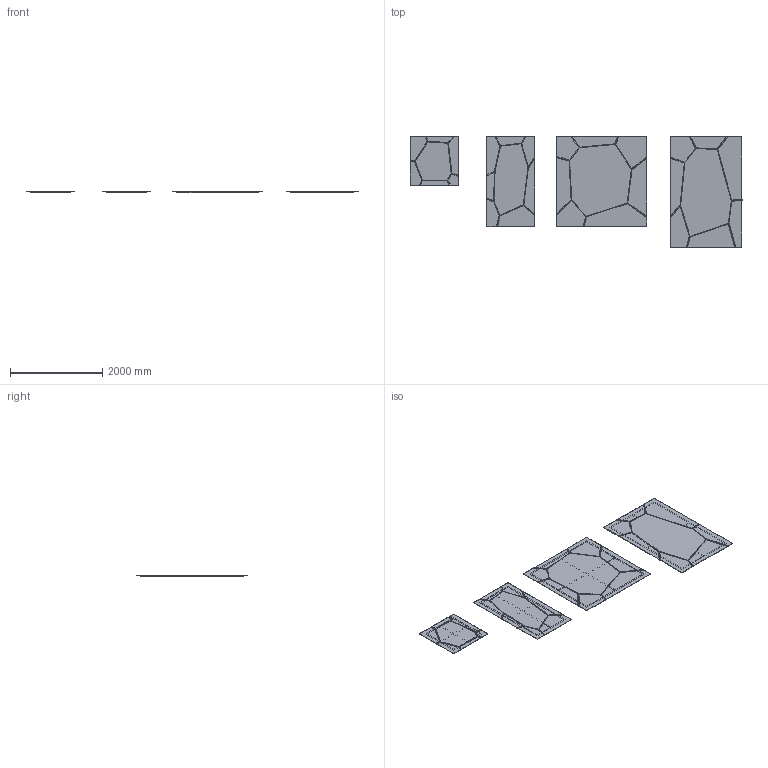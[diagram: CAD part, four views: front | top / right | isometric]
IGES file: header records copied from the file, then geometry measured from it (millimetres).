
Global section: file name: Z:\3D_HQ\2023\specchio-Levy\xRNDR\specchi-Levy.igs; native system: Rhinoceros ( Aug 11 2021 ); preprocessor: Trout Lake IGES 012 Aug 11 2021; date: 230308.165721; units: millimetre
Bounding box: 7210.08 x 2400 x 41 mm (x, y, z)
Surface area: 35057470.7 mm2 (no closed solid volume)
Topology: 0 solids, 0 shells, 1058 faces, 11653 edges, 11599 vertices
Faces by surface type: bspline 1058
